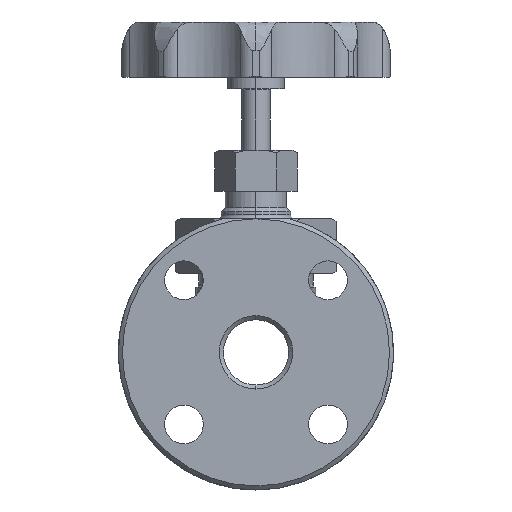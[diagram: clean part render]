
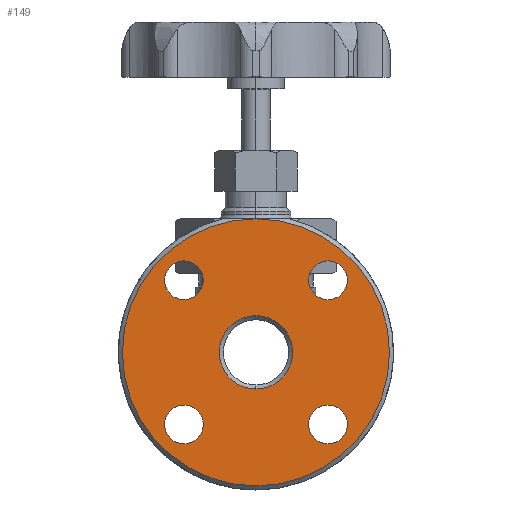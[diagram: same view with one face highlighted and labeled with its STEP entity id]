
A CAD part, left-side view. The second image highlights one B-rep face of the part: STEP entity #149.
In plain terms, the highlighted planar face has unit normal (-1, 0, 0).
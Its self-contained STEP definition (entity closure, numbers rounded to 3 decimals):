
#149=ADVANCED_FACE('',(#1403,#1404,#1405,#1406,#1407,#1408),#1402,.T.);
#1402=PLANE('',#3744);
#1403=FACE_OUTER_BOUND('',#3745,.T.);
#1404=FACE_BOUND('',#3746,.T.);
#1405=FACE_BOUND('',#3747,.T.);
#1406=FACE_BOUND('',#3748,.T.);
#1407=FACE_BOUND('',#3749,.T.);
#1408=FACE_BOUND('',#3750,.T.);
#3741=CARTESIAN_POINT('',(-70.,-123.449,-141.));
#3742=DIRECTION('',(-1.,0.,0.));
#3743=DIRECTION('',(0.,0.,1.));
#3744=AXIS2_PLACEMENT_3D('',#3741,#3742,#3743);
#3745=EDGE_LOOP('',(#5820));
#3746=EDGE_LOOP('',(#5821,#5822));
#3747=EDGE_LOOP('',(#5823,#5824));
#3748=EDGE_LOOP('',(#5825,#5826));
#3749=EDGE_LOOP('',(#5827,#5828));
#3750=EDGE_LOOP('',(#5829,#5830));
#5820=ORIENTED_EDGE('',*,*,#7328,.T.);
#5821=ORIENTED_EDGE('',*,*,#7330,.T.);
#5822=ORIENTED_EDGE('',*,*,#7331,.T.);
#5823=ORIENTED_EDGE('',*,*,#7332,.T.);
#5824=ORIENTED_EDGE('',*,*,#7333,.T.);
#5825=ORIENTED_EDGE('',*,*,#7334,.F.);
#5826=ORIENTED_EDGE('',*,*,#7335,.F.);
#5827=ORIENTED_EDGE('',*,*,#7336,.T.);
#5828=ORIENTED_EDGE('',*,*,#7337,.T.);
#5829=ORIENTED_EDGE('',*,*,#7338,.T.);
#5830=ORIENTED_EDGE('',*,*,#7339,.T.);
#7328=EDGE_CURVE('',#10828,#10828,#10835,.T.);
#7330=EDGE_CURVE('',#10847,#10848,#10849,.T.);
#7331=EDGE_CURVE('',#10848,#10847,#10855,.T.);
#7332=EDGE_CURVE('',#10861,#10862,#10863,.T.);
#7333=EDGE_CURVE('',#10862,#10861,#10869,.T.);
#7334=EDGE_CURVE('',#10875,#10876,#10877,.T.);
#7335=EDGE_CURVE('',#10876,#10875,#10883,.T.);
#7336=EDGE_CURVE('',#10889,#10890,#10891,.T.);
#7337=EDGE_CURVE('',#10890,#10889,#10897,.T.);
#7338=EDGE_CURVE('',#10903,#10904,#10905,.T.);
#7339=EDGE_CURVE('',#10904,#10903,#10911,.T.);
#10828=VERTEX_POINT('',#15765);
#10835=CIRCLE('',#15773,65.5);
#10847=VERTEX_POINT('',#15784);
#10848=VERTEX_POINT('',#15785);
#10849=CIRCLE('',#15789,9.5);
#10855=CIRCLE('',#15793,9.5);
#10861=VERTEX_POINT('',#15794);
#10862=VERTEX_POINT('',#15795);
#10863=CIRCLE('',#15799,9.5);
#10869=CIRCLE('',#15803,9.5);
#10875=VERTEX_POINT('',#15804);
#10876=VERTEX_POINT('',#15805);
#10877=CIRCLE('',#15809,18.);
#10883=CIRCLE('',#15813,18.);
#10889=VERTEX_POINT('',#15814);
#10890=VERTEX_POINT('',#15815);
#10891=CIRCLE('',#15819,9.5);
#10897=CIRCLE('',#15823,9.5);
#10903=VERTEX_POINT('',#15824);
#10904=VERTEX_POINT('',#15825);
#10905=CIRCLE('',#15829,9.5);
#10911=CIRCLE('',#15833,9.5);
#15765=CARTESIAN_POINT('',(-70.,0.,65.5));
#15770=CARTESIAN_POINT('',(-70.,0.,0.));
#15771=DIRECTION('',(-1.,0.,0.));
#15772=DIRECTION('',(0.,0.,1.));
#15773=AXIS2_PLACEMENT_3D('',#15770,#15771,#15772);
#15784=CARTESIAN_POINT('',(-70.,35.355,44.855));
#15785=CARTESIAN_POINT('',(-70.,35.355,25.855));
#15786=CARTESIAN_POINT('',(-70.,35.355,35.355));
#15787=DIRECTION('',(1.,0.,0.));
#15788=DIRECTION('',(0.,0.,1.));
#15789=AXIS2_PLACEMENT_3D('',#15786,#15787,#15788);
#15790=CARTESIAN_POINT('',(-70.,35.355,35.355));
#15791=DIRECTION('',(1.,0.,0.));
#15792=DIRECTION('',(0.,0.,1.));
#15793=AXIS2_PLACEMENT_3D('',#15790,#15791,#15792);
#15794=CARTESIAN_POINT('',(-70.,-35.355,-25.855));
#15795=CARTESIAN_POINT('',(-70.,-35.355,-44.855));
#15796=CARTESIAN_POINT('',(-70.,-35.355,-35.355));
#15797=DIRECTION('',(1.,0.,0.));
#15798=DIRECTION('',(0.,0.,1.));
#15799=AXIS2_PLACEMENT_3D('',#15796,#15797,#15798);
#15800=CARTESIAN_POINT('',(-70.,-35.355,-35.355));
#15801=DIRECTION('',(1.,0.,0.));
#15802=DIRECTION('',(0.,0.,1.));
#15803=AXIS2_PLACEMENT_3D('',#15800,#15801,#15802);
#15804=CARTESIAN_POINT('',(-70.,0.,-18.));
#15805=CARTESIAN_POINT('',(-70.,0.,18.));
#15806=CARTESIAN_POINT('',(-70.,0.,0.));
#15807=DIRECTION('',(-1.,0.,0.));
#15808=DIRECTION('',(0.,0.,1.));
#15809=AXIS2_PLACEMENT_3D('',#15806,#15807,#15808);
#15810=CARTESIAN_POINT('',(-70.,0.,0.));
#15811=DIRECTION('',(-1.,0.,0.));
#15812=DIRECTION('',(0.,0.,1.));
#15813=AXIS2_PLACEMENT_3D('',#15810,#15811,#15812);
#15814=CARTESIAN_POINT('',(-70.,-35.355,44.855));
#15815=CARTESIAN_POINT('',(-70.,-35.355,25.855));
#15816=CARTESIAN_POINT('',(-70.,-35.355,35.355));
#15817=DIRECTION('',(1.,0.,0.));
#15818=DIRECTION('',(0.,0.,1.));
#15819=AXIS2_PLACEMENT_3D('',#15816,#15817,#15818);
#15820=CARTESIAN_POINT('',(-70.,-35.355,35.355));
#15821=DIRECTION('',(1.,0.,0.));
#15822=DIRECTION('',(0.,0.,1.));
#15823=AXIS2_PLACEMENT_3D('',#15820,#15821,#15822);
#15824=CARTESIAN_POINT('',(-70.,35.355,-25.855));
#15825=CARTESIAN_POINT('',(-70.,35.355,-44.855));
#15826=CARTESIAN_POINT('',(-70.,35.355,-35.355));
#15827=DIRECTION('',(1.,0.,0.));
#15828=DIRECTION('',(0.,0.,1.));
#15829=AXIS2_PLACEMENT_3D('',#15826,#15827,#15828);
#15830=CARTESIAN_POINT('',(-70.,35.355,-35.355));
#15831=DIRECTION('',(1.,0.,0.));
#15832=DIRECTION('',(0.,0.,1.));
#15833=AXIS2_PLACEMENT_3D('',#15830,#15831,#15832);
